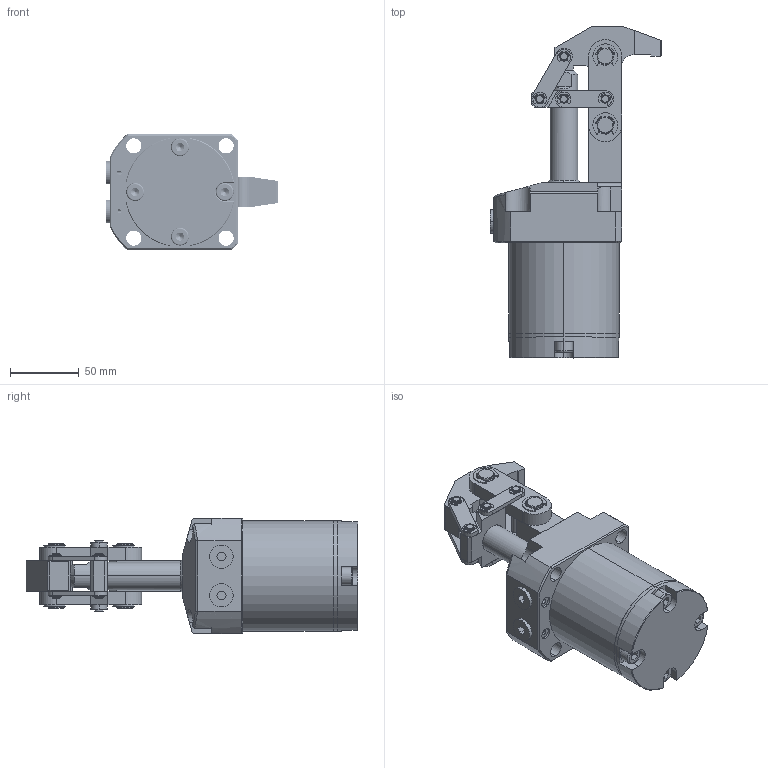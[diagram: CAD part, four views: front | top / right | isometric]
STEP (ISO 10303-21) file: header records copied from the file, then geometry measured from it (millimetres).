
FILE_DESCRIPTION (( 'STEP AP203' ), '1' );
FILE_NAME ('CLF5H-50G油压杠杠杠三维图 -.STEP', '2014-12-20T03:08:28', ( '桑三博客' ), ( 'Www.SangSan.Cn' ), 'SwSTEP 2.0', 'SolidWorks 2012', '' );
FILE_SCHEMA (( 'CONFIG_CONTROL_DESIGN' ));
Products named in the file (19): CLF5H-50G油压杠杠杠三维图 -; 錨璃2; M8蹟隊; CLF5H-50G掛极00; 种粣2; 滅鳥猾; 蟀裝1; 騵艦遠; 种粣1; 蟀裝4; 种粣3; 揤旋; o遠; 綴裔; 蟀裝2; 挡圈2; 挡圈1; 蟀裝3; 活塞杆
Assembly tree (38 placements, depth 2):
  CLF5H-50G油压杠杠杠三维图 -
    活塞杆
    蟀裝3  x2
    挡圈1  x4
    挡圈2  x8
    蟀裝2
    綴裔
    o遠
    揤旋
    种粣3  x2
    蟀裝4  x2
    种粣1  x2
    騵艦遠
    蟀裝1  x2
    滅鳥猾
    种粣2  x2
    CLF5H-50G掛极00
    M8蹟隊  x4
    錨璃2  x2
Bounding box: 124.5 x 241 x 84 mm (x, y, z)
Volume: 746205 mm3; surface area: 164164.3 mm2
Topology: 38 solids, 40 shells, 2131 faces, 5023 edges, 3027 vertices
Faces by surface type: cylinder 985, cone 631, plane 398, bspline 89, torus 28
Entity records: 52027 total; most frequent: CARTESIAN_POINT 25714, ORIENTED_EDGE 5144, DIRECTION 4906, EDGE_CURVE 2572, AXIS2_PLACEMENT_3D 1917, VERTEX_POINT 1602, EDGE_LOOP 1156, LINE 1072
